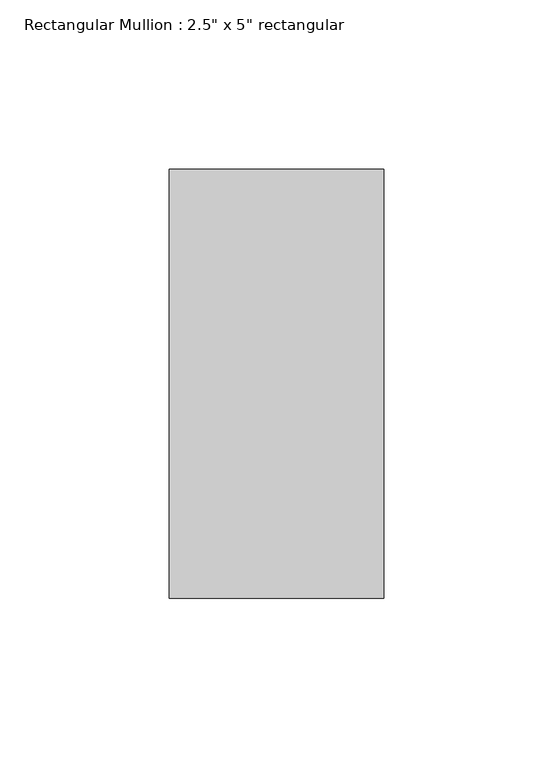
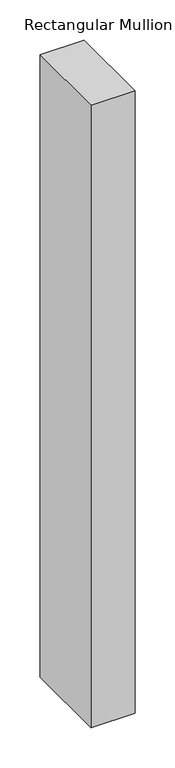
"""IFC4 building model written with IfcOpenShell, lengths in millimetres: member geometry."""

from ifc_helpers import new_model, si_unit, frame, origin, place, context, project, spatial, polyline, outline, extrude, source, transform, mapped, element, save


def member_e8e1ff4f(model_context):
    return source(origin(), model_context, "Body", "SweptSolid", [
        extrude(outline(polyline([(31.75, 63.5), (31.75, -63.5), (-31.75, -63.5), (-31.75, 63.5), (31.75, 63.5)])), frame((0.0, 0.0, -947.7375), z_axis=(0.0, 0.0, 1.0), x_axis=(1.0, 0.0, 0.0)), (0.0, 0.0, 1.0), 947.7375),
    ])


if __name__ == "__main__":
    model = new_model("IFC4")
    model_context = context("Model", 3, world=origin())
    ifc_project = project(units=[si_unit("LENGTHUNIT", "METRE", prefix="MILLI")], contexts=[model_context])
    site = spatial("IfcSite", under=ifc_project)
    building = spatial("IfcBuilding", under=site)
    placement = place(None, origin())
    member_shape = member_e8e1ff4f(model_context)
    element("IfcMember", 1, ObjectType="Rectangular Mullion : 2.5\" x 5\" rectangular", at=placement, inside=building, context=model_context, shape_type="MappedRepresentation", body=[
        mapped(member_shape, transform((0.0, 0.0, 0.0), x_axis=(1.0, 0.0, 0.0), y_axis=(0.0, 1.0, 0.0), z_axis=(0.0, 0.0, 1.0))),
    ])
    save(model, "model.ifc")
